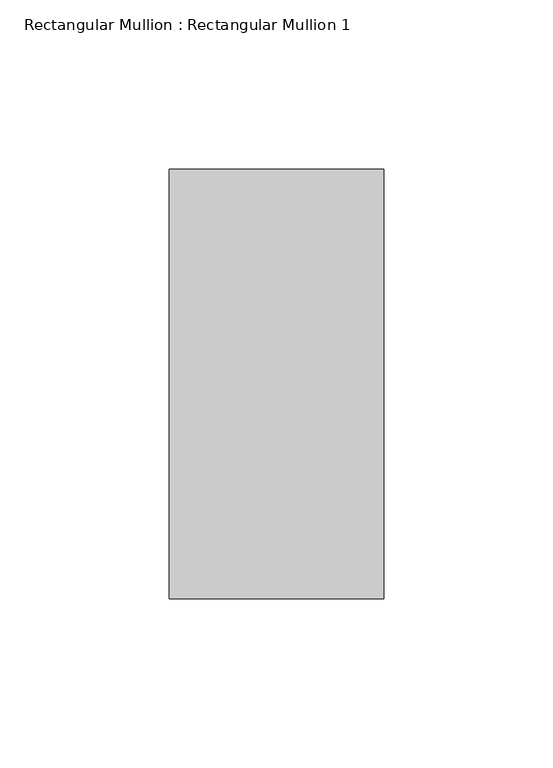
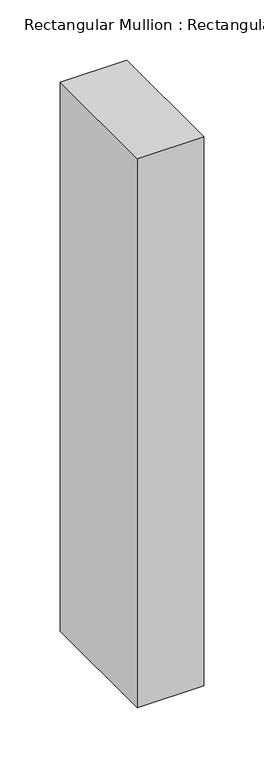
"""IFC4 building model written with IfcOpenShell, lengths in millimetres: member geometry, Rectangular Mullion : Rectangular Mullion 1."""

from ifc_helpers import new_model, si_unit, frame, origin, place, context, project, spatial, polyline, outline, extrude, source, transform, mapped, element, save


def rectangular_mullion_rectangular_mullion_1_01ab8f87(model_context):
    return source(origin(), model_context, "Body", "SweptSolid", [
        extrude(outline(polyline([(31.75, 63.5), (31.75, -63.5), (-31.75, -63.5), (-31.75, 63.5), (31.75, 63.5)])), frame((0.0, 0.0, -554.7741536), z_axis=(0.0, 0.0, 1.0), x_axis=(1.0, 0.0, 0.0)), (0.0, 0.0, 1.0), 554.7741536),
    ])


if __name__ == "__main__":
    model = new_model("IFC4")
    model_context = context("Model", 3, world=origin())
    ifc_project = project(units=[si_unit("LENGTHUNIT", "METRE", prefix="MILLI")], contexts=[model_context])
    site = spatial("IfcSite", under=ifc_project)
    building = spatial("IfcBuilding", under=site)
    placement = place(None, origin())
    rectangular_mullion_rectangular_mullion_1_shape = rectangular_mullion_rectangular_mullion_1_01ab8f87(model_context)
    element("IfcMember", 1, ObjectType="Rectangular Mullion : Rectangular Mullion 1", at=placement, inside=building, context=model_context, shape_type="MappedRepresentation", body=[
        mapped(rectangular_mullion_rectangular_mullion_1_shape, transform((0.0, 0.0, 0.0), x_axis=(1.0, 0.0, 0.0), y_axis=(0.0, 1.0, 0.0), z_axis=(0.0, 0.0, 1.0))),
    ])
    save(model, "model.ifc")
